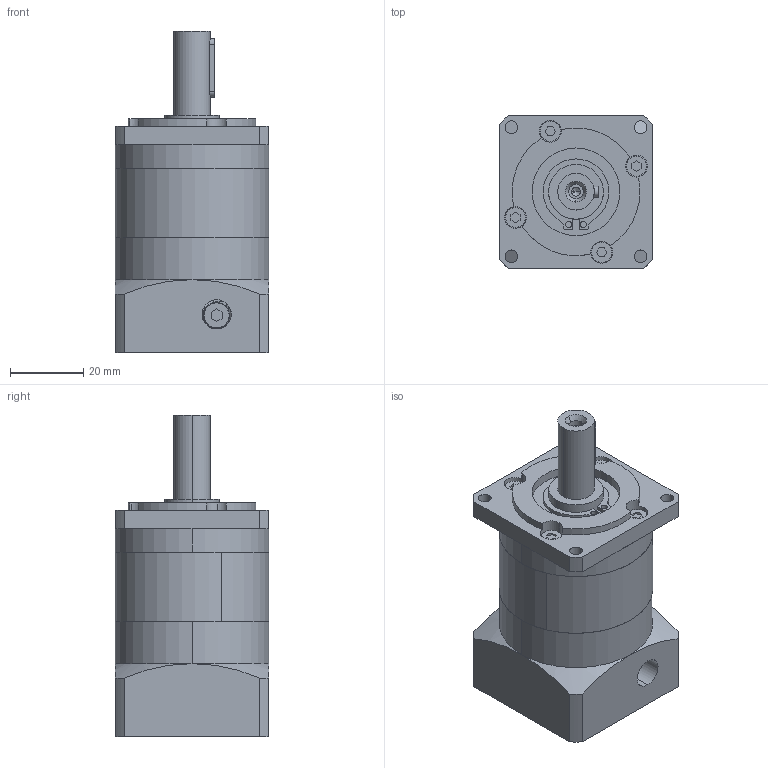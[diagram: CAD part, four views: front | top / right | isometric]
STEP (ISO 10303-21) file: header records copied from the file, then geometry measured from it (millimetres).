
FILE_DESCRIPTION (( 'STEP AP214' ), '1' );
FILE_NAME ('PRF40-L1.STEP', '2020-09-02T09:18:39', ( '微软用户' ), ( '微软中国' ), 'SwSTEP 2.0', 'SolidWorks 2014', '' );
FILE_SCHEMA (( 'AUTOMOTIVE_DESIGN' ));
Length unit declared in the file: millimetre
Products named in the file (13): GB／T276-94深沟球轴承61902-2RZ; PLF40 奻屳唳_D1-70 D2-5.5 D3-14 D4-17 D5-50 L1-30 L2-35 L3-3 A1-60 S1-3 S2-20 S3-5 S4-18 B-5 H-16 C-M5; PLF40 κｳﾝﾈｦ_ﾒｻｼｶﾄﾚｳﾝﾈｦ; PLF40 帣釱_D6-60 D7-14 梓袧; 邧埴瑩 3x3x16; 囀鞠褒蹟佪-M4℅12; PRF40-L1
Assembly tree (6 placements, depth 2):
  GB／T276-94深沟球轴承61902-2RZ
  PRF40-L1
    PLF40 奻屳唳_D1-70 D2-5.5 D3-14 D4-17 D5-50 L1-30 L2-35 L3-3 A1-60 S1-3 S2-20 S3-5 S4-18 B-5 H-16 C-M5
    PLF40 κｳﾝﾈｦ_ﾒｻｼｶﾄﾚｳﾝﾈｦ
    PLF40 帣釱_D6-60 D7-14 梓袧
    邧埴瑩 3x3x16
    囀鞠褒蹟佪-M4℅12
    GB／T276-94深沟球轴承61902-2RZ
  PLF40 奻屳唳_D1-70 D2-5.5 D3-14 D4-17 D5-50 L1-30 L2-35 L3-3 A1-60 S1-3 S2-20 S3-5 S4-18 B-5 H-16 C-M5
  PLF40 κｳﾝﾈｦ_ﾒｻｼｶﾄﾚｳﾝﾈｦ
  PLF40 帣釱_D6-60 D7-14 梓袧
Bounding box: 42 x 42 x 88 mm (x, y, z)
Volume: 83435 mm3; surface area: 31306.5 mm2
Topology: 6 solids, 6 shells, 407 faces, 1106 edges, 719 vertices
Faces by surface type: cylinder 139, plane 136, bspline 118, cone 14
Entity records: 23258 total; most frequent: CARTESIAN_POINT 8882, ORIENTED_EDGE 2192, DIRECTION 1757, EDGE_CURVE 1096, VERTEX_POINT 719, AXIS2_PLACEMENT_3D 714, EDGE_LOOP 483, UNCERTAINTY_MEASURE_WITH_UNIT 426
